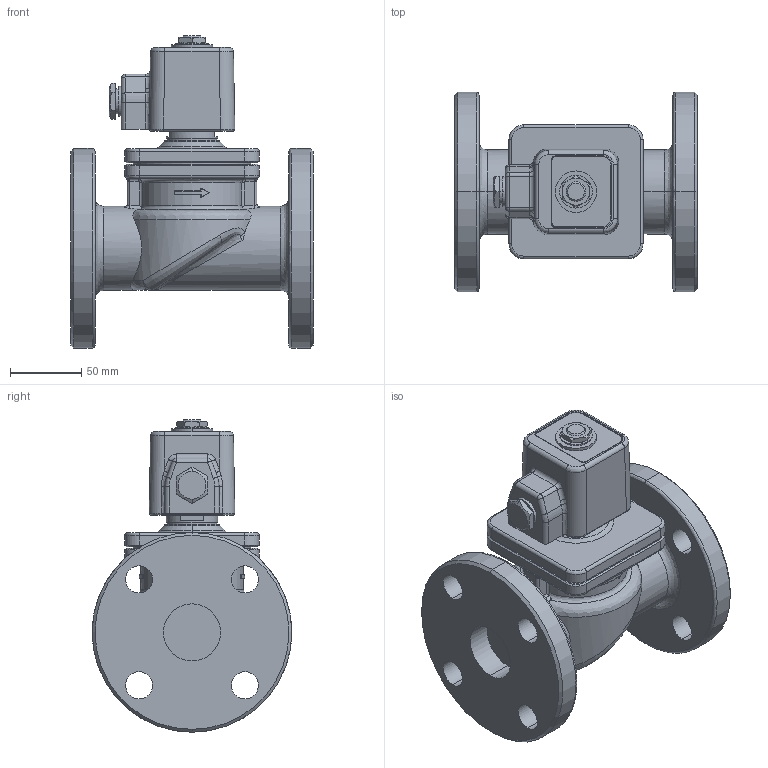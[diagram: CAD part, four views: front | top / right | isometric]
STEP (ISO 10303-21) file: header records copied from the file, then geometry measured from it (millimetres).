
FILE_DESCRIPTION( (''), '2;1');
FILE_NAME ('PC1027.7416.DP-100F　40A_30241.stp','2025-07-28T18:20:18',(''),(''),'spGate 19.8.4 (****-****-****-****)','','');
FILE_SCHEMA (('AUTOMOTIVE_DESIGN'));
Length unit declared in the file: millimetre
Products named in the file (6): Assembly; DP-100F 弁箱 40A; ふた 40A; パイプP 32-65A; コイルＰ 32-65A; プレートP 32-65A
Assembly tree (5 placements, depth 2):
  Assembly
    DP-100F 弁箱 40A
    ふた 40A
    パイプP 32-65A
    コイルＰ 32-65A
    プレートP 32-65A
Bounding box: 170 x 140 x 219 mm (x, y, z)
Volume: 1461953.5 mm3; surface area: 181425.6 mm2
Topology: 5 solids, 5 shells, 475 faces, 1111 edges, 645 vertices
Faces by surface type: bspline 170, cylinder 170, plane 121, sphere 14
Entity records: 27410 total; most frequent: CARTESIAN_POINT 8717, ORIENTED_EDGE 2168, DIRECTION 1811, COLOUR_RGB 1564, PRESENTATION_STYLE_ASSIGNMENT 1564, STYLED_ITEM 1564, EDGE_CURVE 1084, DRAUGHTING_PRE_DEFINED_CURVE_FONT 1084
